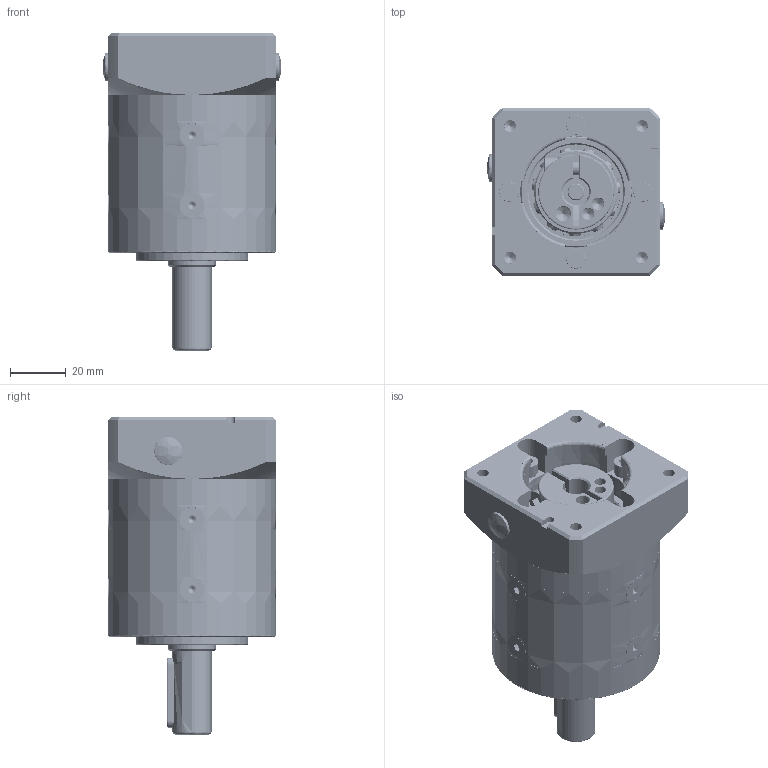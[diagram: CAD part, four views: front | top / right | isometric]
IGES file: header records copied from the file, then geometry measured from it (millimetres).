
Start section: SolidWorks IGES file using analytic representation for surfaces
Global section: file name: C:\TeknicPDM\Remarketed and Private Label Products\Gearboxes\Gearbox Customer Files\GSLL (Newstart PL Series)\GSLL-060-0_ _-N023_-XX Single Stage.IGS; native system: SolidWorks 2020; preprocessor: SolidWorks 2020; author: zeb_koch; date: 250826.104858; units: millimetre
Bounding box: 63.92 x 60 x 113.5 mm (x, y, z)
Surface area: 85392.8 mm2 (no closed solid volume)
Topology: 0 solids, 0 shells, 1327 faces, 26984 edges, 26856 vertices
Faces by surface type: bspline 751, revolution 576
